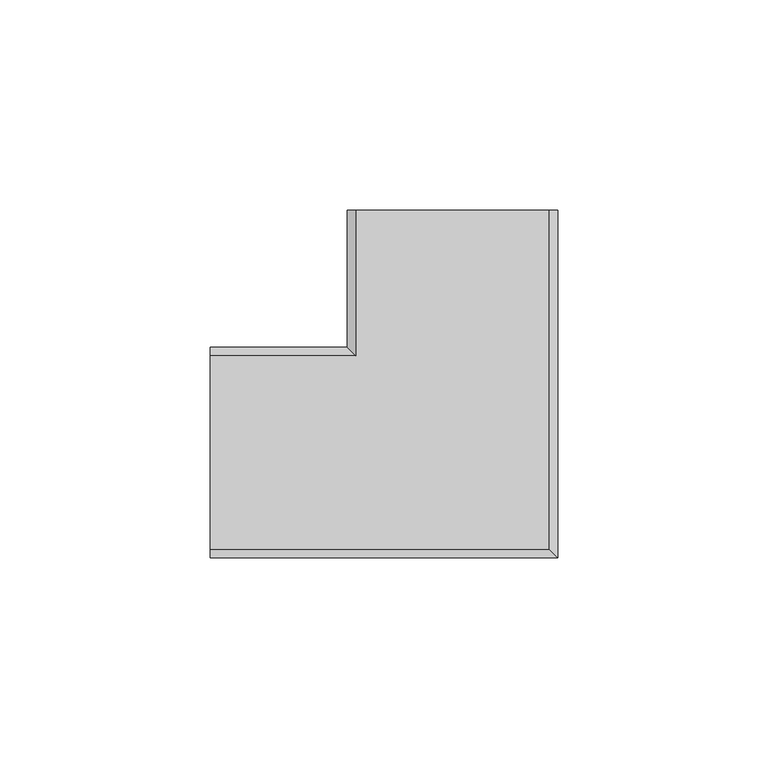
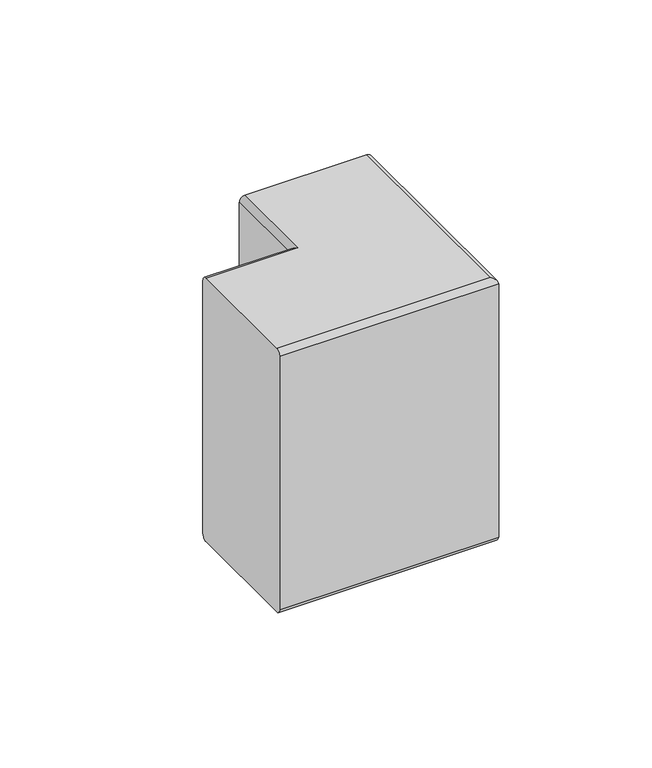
"""IFC4 building model written with IfcOpenShell, lengths in millimetres: duct fitting geometry, Угол плоский 90° - для односекционных кабель-каналов DLP - белый : 50х105мм."""

from ifc_helpers import new_model, si_unit, frame, origin, place, context, project, spatial, circle_curve, ellipse_curve, source, transform, mapped, element, save
from ifc_brep_helpers import plane_surface, cylinder_surface, advanced_brep


def duct_fitting_5fcc4261(model_context):
    return source(origin(), model_context, "Body", "AdvancedBrep", [
        advanced_brep(
        [(41.9265001, 36.8417726, 48.7223119), (43.9265001, 36.8417726, 46.7223119), (43.9265001, 36.8417726, -54.2776881), (41.9265001, 36.8417726, -56.2776881), (-4.0734999, 36.8417726, -56.2776881), (-6.0734999, 36.8417726, -54.2776881), (-6.0734999, 36.8417726, 46.7223119), (-4.0734999, 36.8417726, 48.7223119), (41.9265001, -43.6582274, 48.7223119), (43.9265001, -45.6582274, 46.7223119), (43.9265001, -45.6582274, -54.2776881), (41.9265001, -43.6582274, -56.2776881), (-38.5734999, -43.6582274, -56.2776881), (-38.5734999, 2.3417726, -56.2776881), (-4.0734999, 2.3417726, -56.2776881), (-6.0734999, 4.3417726, -54.2776881), (-6.0734999, 4.3417726, 46.7223119), (-4.0734999, 2.3417726, 48.7223119), (-38.5734999, 2.3417726, 48.7223119), (-38.5734999, -43.6582274, 48.7223119), (-38.5734999, 4.3417726, 46.7223119), (-38.5734999, 4.3417726, -54.2776881), (-38.5734999, -45.6582274, -54.2776881), (-38.5734999, -45.6582274, 46.7223119)],
        [
            (0, 1, circle_curve(frame((41.9265001, 36.8417726, 46.7223119), z_axis=(0.0, 1.0, 0.0), x_axis=(1.0, 0.0, 0.0)), 2.0)),
            (1, 2),
            (2, 3, circle_curve(frame((41.9265001, 36.8417726, -54.2776881), z_axis=(0.0, 1.0, 0.0), x_axis=(1.0, 0.0, 0.0)), 2.0)),
            (3, 4),
            (4, 5, circle_curve(frame((-4.0734999, 36.8417726, -54.2776881), z_axis=(0.0, 1.0, 0.0), x_axis=(1.0, 0.0, 0.0)), 2.0)),
            (5, 6),
            (6, 7, circle_curve(frame((-4.0734999, 36.8417726, 46.7223119), z_axis=(0.0, 1.0, 0.0), x_axis=(1.0, 0.0, 0.0)), 2.0)),
            (7, 0),
            (0, 8),
            (8, 9, ellipse_curve(frame((41.9265001, -43.6582274, 46.7223119), z_axis=(0.7071067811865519, 0.7071067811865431, 0.0), x_axis=(-0.707106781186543, 0.707106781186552, 0.0)), 2.8284271, 2.0)),
            (9, 1),
            (9, 10),
            (10, 2),
            (10, 11, ellipse_curve(frame((41.9265001, -43.6582274, -54.2776881), z_axis=(0.7071067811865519, 0.7071067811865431, 0.0), x_axis=(-0.707106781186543, 0.707106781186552, 0.0)), 2.8284271, 2.0)),
            (11, 3),
            (11, 12),
            (12, 13),
            (13, 14),
            (14, 4),
            (14, 15, ellipse_curve(frame((-4.0734999, 2.3417726, -54.2776881), z_axis=(0.7071067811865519, 0.7071067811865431, 0.0), x_axis=(-0.707106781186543, 0.707106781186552, 0.0)), 2.8284271, 2.0)),
            (15, 5),
            (15, 16),
            (16, 6),
            (16, 17, ellipse_curve(frame((-4.0734999, 2.3417726, 46.7223119), z_axis=(0.7071067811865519, 0.7071067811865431, 0.0), x_axis=(-0.707106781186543, 0.707106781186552, 0.0)), 2.8284271, 2.0)),
            (17, 7),
            (17, 18),
            (18, 19),
            (19, 8),
            (18, 20, circle_curve(frame((-38.5734999, 2.3417726, 46.7223119), z_axis=(-1.0, 0.0, 0.0), x_axis=(0.0, -1.0, 0.0)), 2.0)),
            (20, 21),
            (21, 13, circle_curve(frame((-38.5734999, 2.3417726, -54.2776881), z_axis=(-1.0, 0.0, 0.0), x_axis=(0.0, -1.0, 0.0)), 2.0)),
            (12, 22, circle_curve(frame((-38.5734999, -43.6582274, -54.2776881), z_axis=(-1.0, 0.0, 0.0), x_axis=(0.0, -1.0, 0.0)), 2.0)),
            (22, 23),
            (23, 19, circle_curve(frame((-38.5734999, -43.6582274, 46.7223119), z_axis=(-1.0, 0.0, 0.0), x_axis=(0.0, -1.0, 0.0)), 2.0)),
            (23, 9),
            (22, 10),
            (21, 15),
            (20, 16),
        ],
        [
            plane_surface(frame((18.9265001, 36.8417726, -3.7776881), z_axis=(0.0, 1.0, 0.0), x_axis=(0.0, 0.0, 1.0))),
            cylinder_surface(frame((41.9265001, 36.8417726, 46.7223119), z_axis=(0.0, 1.0, 0.0), x_axis=(1.0, 0.0, 0.0)), 2.0),
            plane_surface(frame((43.9265001, 36.8417726, 46.7223119), z_axis=(1.0, 0.0, 0.0), x_axis=(0.0, -1.0, 0.0))),
            cylinder_surface(frame((41.9265001, 36.8417726, -54.2776881), z_axis=(0.0, 1.0, 0.0), x_axis=(1.0, 0.0, 0.0)), 2.0),
            plane_surface(frame((41.9265001, 36.8417726, -56.2776881), z_axis=(0.0, 0.0, -1.0), x_axis=(0.0, -1.0, 0.0))),
            cylinder_surface(frame((-4.0734999, 36.8417726, -54.2776881), z_axis=(0.0, 1.0, 0.0), x_axis=(1.0, 0.0, 0.0)), 2.0),
            plane_surface(frame((-6.0734999, 36.8417726, -54.2776881), z_axis=(-1.0, 0.0, 0.0), x_axis=(0.0, -1.0, 0.0))),
            cylinder_surface(frame((-4.0734999, 36.8417726, 46.7223119), z_axis=(0.0, 1.0, 0.0), x_axis=(1.0, 0.0, 0.0)), 2.0),
            plane_surface(frame((-4.0734999, 36.8417726, 48.7223119), z_axis=(0.0, 0.0, 1.0), x_axis=(0.0, -1.0, 0.0))),
            plane_surface(frame((-38.5734999, -20.6582274, -3.7776881), z_axis=(-1.0, 0.0, 0.0), x_axis=(0.0, 0.0, 1.0))),
            cylinder_surface(frame((18.9265001, -43.6582274, 46.7223119), z_axis=(1.0, 0.0, 0.0), x_axis=(0.0, -1.0, 0.0)), 2.0),
            plane_surface(frame((43.9265001, -45.6582274, 46.7223119), z_axis=(0.0, -1.0, 0.0), x_axis=(-1.0, 0.0, 0.0))),
            cylinder_surface(frame((18.9265001, -43.6582274, -54.2776881), z_axis=(1.0, 0.0, 0.0), x_axis=(0.0, -1.0, 0.0)), 2.0),
            cylinder_surface(frame((18.9265001, 2.3417726, -54.2776881), z_axis=(1.0, 0.0, 0.0), x_axis=(0.0, -1.0, 0.0)), 2.0),
            plane_surface(frame((-6.0734999, 4.3417726, -54.2776881), z_axis=(0.0, 1.0, 0.0), x_axis=(-1.0, 0.0, 0.0))),
            cylinder_surface(frame((18.9265001, 2.3417726, 46.7223119), z_axis=(1.0, 0.0, 0.0), x_axis=(0.0, -1.0, 0.0)), 2.0),
        ],
        [
            (0, [[1, 2, 3, 4, 5, 6, 7, 8]]),
            (1, [[-1, 9, 10, 11]]),
            (2, [[-2, -11, 12, 13]]),
            (3, [[-3, -13, 14, 15]]),
            (4, [[-4, -15, 16, 17, 18, 19]]),
            (5, [[-5, -19, 20, 21]]),
            (6, [[-6, -21, 22, 23]]),
            (7, [[-7, -23, 24, 25]]),
            (8, [[-8, -25, 26, 27, 28, -9]]),
            (9, [[-27, 29, 30, 31, -17, 32, 33, 34]]),
            (10, [[-10, -28, -34, 35]]),
            (11, [[-12, -35, -33, 36]]),
            (12, [[-14, -36, -32, -16]]),
            (13, [[-20, -18, -31, 37]]),
            (14, [[-22, -37, -30, 38]]),
            (15, [[-24, -38, -29, -26]]),
        ],
    ),
    ])


if __name__ == "__main__":
    model = new_model("IFC4")
    model_context = context("Model", 3, world=origin())
    ifc_project = project(units=[si_unit("LENGTHUNIT", "METRE", prefix="MILLI")], contexts=[model_context])
    site = spatial("IfcSite", under=ifc_project)
    building = spatial("IfcBuilding", under=site)
    placement = place(None, origin())
    duct_fitting_shape = duct_fitting_5fcc4261(model_context)
    element("IfcDuctFitting", 1, ObjectType="Угол плоский 90° - для односекционных кабель-каналов DLP - белый : 50х105мм", at=placement, inside=building, context=model_context, shape_type="MappedRepresentation", body=[
        mapped(duct_fitting_shape, transform((0.0, 0.0, 0.0), x_axis=(1.0, 0.0, 0.0), y_axis=(0.0, 1.0, 0.0), z_axis=(0.0, 0.0, 1.0))),
    ])
    save(model, "model.ifc")
